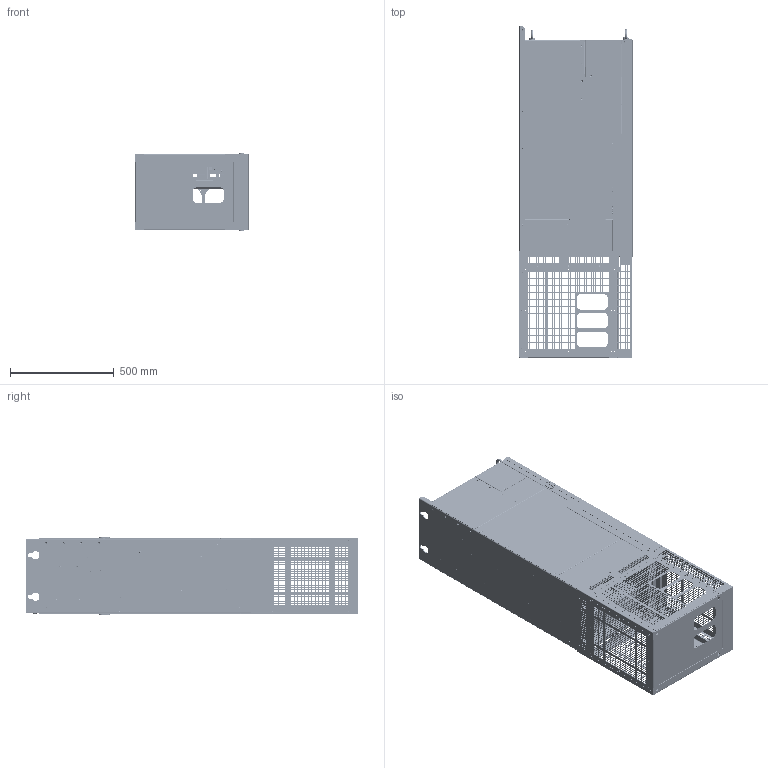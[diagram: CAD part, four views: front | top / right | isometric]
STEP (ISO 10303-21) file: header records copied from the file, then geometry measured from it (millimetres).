
FILE_DESCRIPTION((''),'2;1');
FILE_NAME('NVF7-220T-S4_ASM','2025-09-16T17:24:46',('dysunht'),(''),'CREO PARAMETRIC BY PTC INC, 2020044','CREO PARAMETRIC BY PTC INC, 2020044','');
FILE_SCHEMA(('CONFIG_CONTROL_DESIGN','SHAPE_APPEARANCE_LAYERS_GROUPS'));
Products named in the file (178): JXDZ_01_1; JXDZ_315P_02_ASM_1_ASM; 8048V1618_1; 8315V1617_1; PCB-1_1_1_1; PCB-2-A_1_1_1; LCD-1_1_1_1; ANL01_1_23_1__4_1_1_1; MANIFOLD_SOLID_BREP_21504_1_1; MANIFOLD_SOLID_BREP_21654_1_1; DZ-01_1_3_7_1__1_1_ASM_1_ASM_1_ASM; 5599V1602_ASM_1_ASM; 8865V1605_1; BOX-BOTTOM-PLATE_1_1_1; M4X4_1_1_1; 5022V1607_ASM_1_ASM; LED-11_1_1; PA-3X6_1_1; 5353V1602_ASM_1_ASM; XSH_315P_01_ASM_1_ASM; ZYJ_SRQ_315P_01_ASM_1_ASM; 5511V1980_1; S-M6-2_1; 5511V1980_ASM_1_ASM; 8511V1983_1; 8511V1986_1; 8511V1987_1; 8511V1988_1; 8511V1989_1; 8511V1990_1; 8511V1991_1; DDP_315P_01_ASM_4_ASM; BB_315_01_4; GBT-12616_4_51-4-8_1; BB_315P_MD_01_ASM_4_ASM; S-M5-2_1; TPS-5-16_1; S-M6-1_1; S-M4-1_1; BB_315P_01_ASM_4_ASM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
Assembly tree (615 placements, depth 8):
  NVF7-220T-S4_ASM
    00_315P_ASM_4_ASM
      ZYJ_SRQ_315P_01_ASM_1_ASM
        JXDZ_315P_02_ASM_1_ASM
          JXDZ_01_1  x8
        XSH_315P_01_ASM_1_ASM
          8048V1618_1
          5353V1602_ASM_1_ASM
            8315V1617_1
            5599V1602_ASM_1_ASM
              PCB-1_1_1_1
              PCB-2-A_1_1_1
              LCD-1_1_1_1
              ANL01_1_23_1__4_1_1_1  x9
              DZ-01_1_3_7_1__1_1_ASM_1_ASM_1_ASM
                MANIFOLD_SOLID_BREP_21504_1_1
                MANIFOLD_SOLID_BREP_21654_1_1
            8865V1605_1
            5022V1607_ASM_1_ASM
              BOX-BOTTOM-PLATE_1_1_1
              M4X4_1_1_1  x2
            LED-11_1_1
            PA-3X6_1_1  x3
      DDP_315P_01_ASM_4_ASM
        5511V1980_ASM_1_ASM
          5511V1980_1
          S-M6-2_1  x4
        8511V1983_1
        8511V1986_1
        8511V1987_1
        8511V1988_1
        8511V1989_1
        8511V1990_1
        8511V1991_1
      5002V1610_ASM_4_ASM
        5823V1616_ASM_5_ASM
          BB_315P_01_ASM_4_ASM
            BB_315_01_4
            BB_315P_MD_01_ASM_4_ASM
              GBT-12616_4_51-4-8_1  x36
            S-M5-2_1  x3
            TPS-5-16_1  x2
            S-M6-1_1  x2
            S-M4-1_1  x5
          BBJQ_315P_01_1
          DKQ-25-01_1
          YCB-20-S01-315P_ASM_1_ASM
            YCB-20-S01__1
            S-M5-2__1  x4
            BSO-3_5M3X20__1  x4
            BSO-3_5M3X16__1  x12
            DH1-25-01__1
            HJLM-M12__1
          DRB-20-01-315P_ASM_1_ASM
            DRB-20-01-315P_1
            S-M5-2_1  x8
            S-M4-1_1  x36
            S-M6-1_1
            BSO-3_5M3X8_1  x5
          ZGB-20-315P-01_ASM_1_ASM
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Bounding box: 551.47 x 1600 x 373 mm (x, y, z)
Volume: 12121602.2 mm3; surface area: 12297426.5 mm2
Topology: 563 solids, 615 shells, 54738 faces, 152503 edges, 100607 vertices
Faces by surface type: plane 43304, cylinder 5174, cone 3844, torus 986, bspline 625, revolution 478, extrusion 319, sphere 8
Entity records: 735816 total; most frequent: CARTESIAN_POINT 124761, ORIENTED_EDGE 101413, DIRECTION 96203, EDGE_CURVE 50800, VECTOR 41957, LINE 41878, VERTEX_POINT 33465, AXIS2_PLACEMENT_3D 27118
